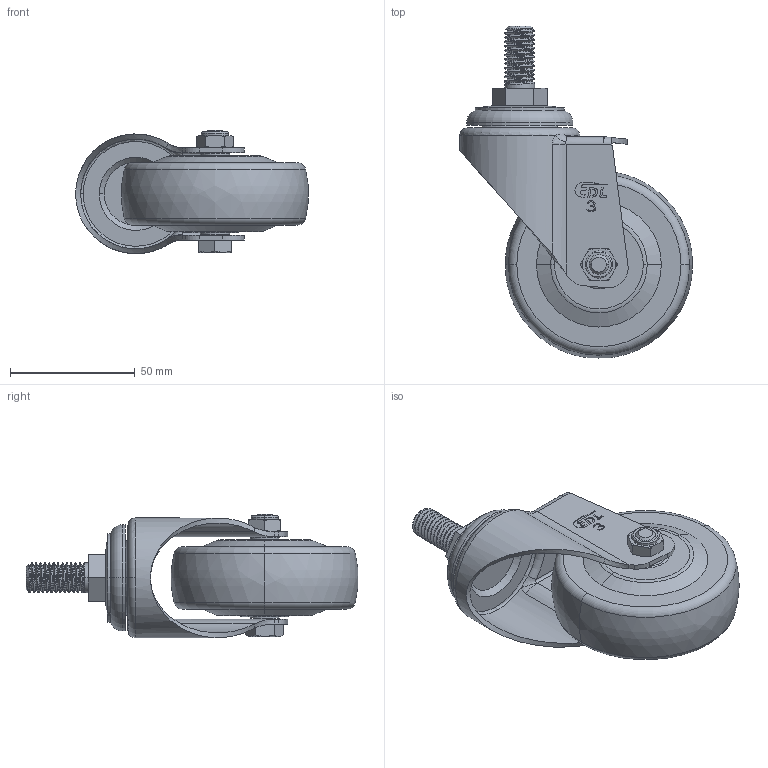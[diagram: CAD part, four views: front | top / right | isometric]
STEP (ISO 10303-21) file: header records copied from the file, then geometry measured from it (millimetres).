
FILE_DESCRIPTION((''),'2;1');
FILE_NAME('S34733_ASM','2021-07-24T',('lenovo'),(''),'PRO/ENGINEER BY PARAMETRIC TECHNOLOGY CORPORATION, 2010280','PRO/ENGINEER BY PARAMETRIC TECHNOLOGY CORPORATION, 2010280','');
FILE_SCHEMA(('CONFIG_CONTROL_DESIGN'));
Length unit declared in the file: millimetre
Products named in the file (6): S340-23; S343-11; 363-964; S340-33; S340-34; S34733_ASM
Assembly tree (5 placements, depth 2):
  S34733_ASM
    S340-23
    S343-11
    363-964
    S340-33
    S340-34
Bounding box: 93.06 x 132.86 x 49.5 mm (x, y, z)
Volume: 144651.7 mm3; surface area: 37581.4 mm2
Topology: 5 solids, 5 shells, 312 faces, 791 edges, 504 vertices
Faces by surface type: plane 145, cylinder 79, torus 30, bspline 28, cone 26, sphere 4
Entity records: 14320 total; most frequent: CARTESIAN_POINT 6864, ORIENTED_EDGE 1582, DIRECTION 1429, EDGE_CURVE 791, VERTEX_POINT 504, AXIS2_PLACEMENT_3D 491, VECTOR 447, LINE 447
